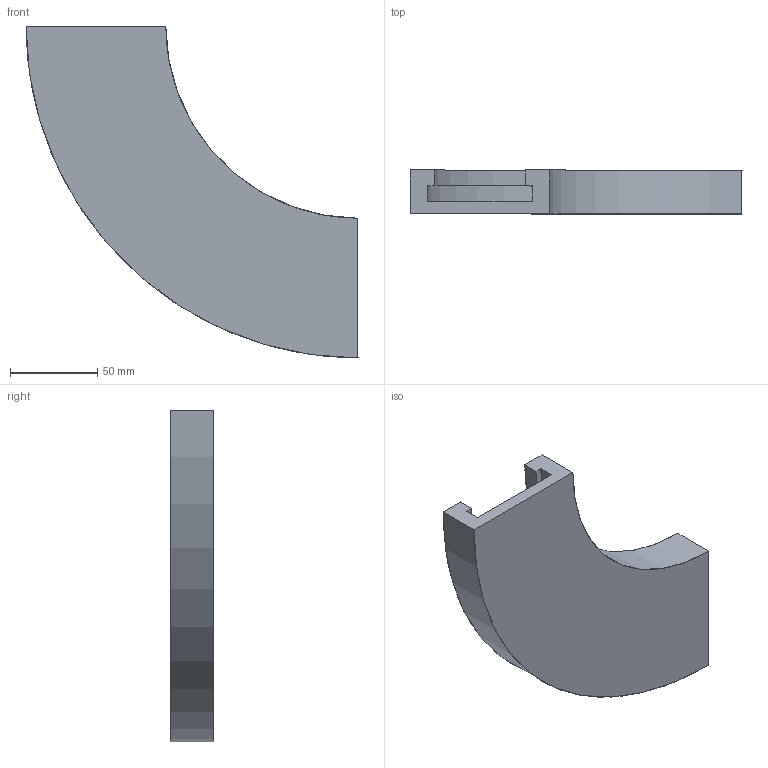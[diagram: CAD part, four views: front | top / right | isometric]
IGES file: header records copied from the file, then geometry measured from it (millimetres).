
Start section: SolidWorks IGES file using analytic representation for surfaces
Global section: file name: C:\Documents and Settings\URETIM3\Desktop\yeni katalog tolgay düzenli\E kataloðu\OMURGALI(KARDENÝK) BANT DÖNÜÞ TAKIMI\225 150 082.IGS; native system: SolidWorks 2006 by SolidWorks Corporation; preprocessor: SolidWorks 2006 by SolidWorks Corporation; author: URETIM3; date: 060912.164457; units: millimetre
Bounding box: 190 x 25 x 190 mm (x, y, z)
Surface area: 63716.3 mm2 (no closed solid volume)
Topology: 0 solids, 0 shells, 14 faces, 252 edges, 252 vertices
Faces by surface type: bspline 8, revolution 6
